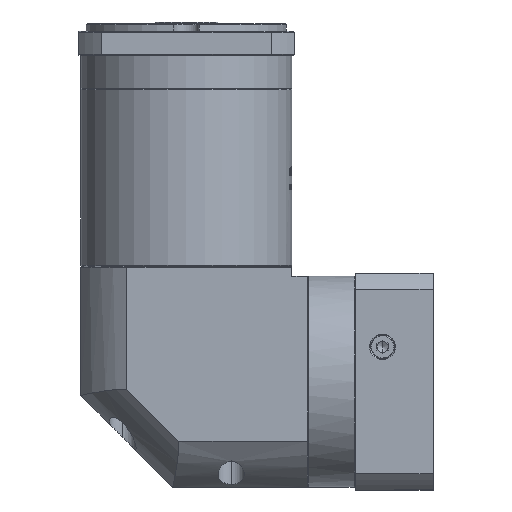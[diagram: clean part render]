
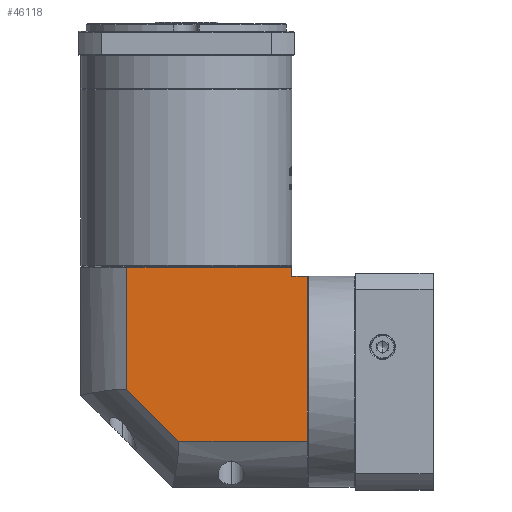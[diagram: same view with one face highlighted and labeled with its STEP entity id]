
A CAD part, left-side view. The second image highlights one B-rep face of the part: STEP entity #46118.
In plain terms, the highlighted planar face has unit normal (-1, 0, 0).
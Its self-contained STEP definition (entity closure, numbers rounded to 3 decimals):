
#769 = ORIENTED_EDGE ( 'NONE', *, *, #129847, .F. ) ;
#1420 = VECTOR ( 'NONE', #135850, 1000. ) ;
#1947 = CARTESIAN_POINT ( 'NONE',  ( -266.518, 25.467, 94.296 ) ) ;
#3089 = DIRECTION ( 'NONE',  ( 0., 0., 1. ) ) ;
#4022 = DIRECTION ( 'NONE',  ( 0., 1., 0. ) ) ;
#11908 = CARTESIAN_POINT ( 'NONE',  ( -266.518, -97.933, -7.104 ) ) ;
#13680 = EDGE_CURVE ( 'NONE', #134023, #71669, #16018, .T. ) ;
#14111 = PLANE ( 'NONE',  #39525 ) ;
#16018 = LINE ( 'NONE', #142987, #107247 ) ;
#17483 = FACE_OUTER_BOUND ( 'NONE', #151511, .T. ) ;
#24623 = VERTEX_POINT ( 'NONE', #162646 ) ;
#24628 = VERTEX_POINT ( 'NONE', #60773 ) ;
#27489 = CARTESIAN_POINT ( 'NONE',  ( -266.518, -89.533, 82.796 ) ) ;
#27986 = CARTESIAN_POINT ( 'NONE',  ( -266.518, -89.533, -32.204 ) ) ;
#35723 = ORIENTED_EDGE ( 'NONE', *, *, #13680, .T. ) ;
#39525 = AXIS2_PLACEMENT_3D ( 'NONE', #1947, #128698, #103835 ) ;
#45920 = ORIENTED_EDGE ( 'NONE', *, *, #157687, .F. ) ;
#46118 = ADVANCED_FACE ( 'NONE', ( #17483 ), #14111, .F. ) ;
#50097 = ORIENTED_EDGE ( 'NONE', *, *, #125048, .T. ) ;
#50543 = EDGE_CURVE ( 'NONE', #24628, #104330, #106464, .T. ) ;
#52717 = CARTESIAN_POINT ( 'NONE',  ( -266.518, 0.367, 94.296 ) ) ;
#57429 = CARTESIAN_POINT ( 'NONE',  ( -266.518, 25.467, -7.104 ) ) ;
#58940 = VECTOR ( 'NONE', #151903, 1000. ) ;
#60773 = CARTESIAN_POINT ( 'NONE',  ( -266.518, 0.367, 21.234 ) ) ;
#63990 = DIRECTION ( 'NONE',  ( 0., 0., -1. ) ) ;
#64877 = LINE ( 'NONE', #151918, #130174 ) ;
#65775 = ORIENTED_EDGE ( 'NONE', *, *, #50543, .F. ) ;
#71669 = VERTEX_POINT ( 'NONE', #27489 ) ;
#73375 = EDGE_CURVE ( 'NONE', #104330, #156011, #64877, .T. ) ;
#74823 = LINE ( 'NONE', #27986, #154159 ) ;
#78315 = VERTEX_POINT ( 'NONE', #11908 ) ;
#80417 = LINE ( 'NONE', #89466, #118085 ) ;
#86980 = CARTESIAN_POINT ( 'NONE',  ( -266.518, -97.933, 82.796 ) ) ;
#89068 = VECTOR ( 'NONE', #108343, 1000. ) ;
#89466 = CARTESIAN_POINT ( 'NONE',  ( -266.518, -97.933, 94.296 ) ) ;
#90563 = LINE ( 'NONE', #97653, #1420 ) ;
#97653 = CARTESIAN_POINT ( 'NONE',  ( -266.518, -27.971, -7.104 ) ) ;
#98943 = LINE ( 'NONE', #57429, #89068 ) ;
#100928 = ORIENTED_EDGE ( 'NONE', *, *, #115651, .F. ) ;
#101492 = DIRECTION ( 'NONE',  ( 0., -1., 0. ) ) ;
#103473 = ORIENTED_EDGE ( 'NONE', *, *, #73375, .F. ) ;
#103835 = DIRECTION ( 'NONE',  ( 0., 1., 0. ) ) ;
#104330 = VERTEX_POINT ( 'NONE', #148557 ) ;
#106464 = LINE ( 'NONE', #52717, #58940 ) ;
#107247 = VECTOR ( 'NONE', #4022, 1000. ) ;
#108343 = DIRECTION ( 'NONE',  ( 0., 1., 0. ) ) ;
#115651 = EDGE_CURVE ( 'NONE', #24623, #24628, #90563, .T. ) ;
#118085 = VECTOR ( 'NONE', #63990, 1000. ) ;
#125048 = EDGE_CURVE ( 'NONE', #71669, #156011, #74823, .T. ) ;
#128698 = DIRECTION ( 'NONE',  ( 1., 0., 0. ) ) ;
#129847 = EDGE_CURVE ( 'NONE', #134023, #78315, #80417, .T. ) ;
#130174 = VECTOR ( 'NONE', #101492, 1000. ) ;
#134023 = VERTEX_POINT ( 'NONE', #86980 ) ;
#135850 = DIRECTION ( 'NONE',  ( 0., 0.707, 0.707 ) ) ;
#142987 = CARTESIAN_POINT ( 'NONE',  ( -266.518, -89.533, 82.796 ) ) ;
#148557 = CARTESIAN_POINT ( 'NONE',  ( -266.518, 0.367, 87.796 ) ) ;
#151511 = EDGE_LOOP ( 'NONE', ( #65775, #100928, #45920, #769, #35723, #50097, #103473 ) ) ;
#151903 = DIRECTION ( 'NONE',  ( 0., 0., 1. ) ) ;
#151918 = CARTESIAN_POINT ( 'NONE',  ( -266.518, 25.467, 87.796 ) ) ;
#154159 = VECTOR ( 'NONE', #3089, 1000. ) ;
#156011 = VERTEX_POINT ( 'NONE', #160852 ) ;
#157687 = EDGE_CURVE ( 'NONE', #78315, #24623, #98943, .T. ) ;
#160852 = CARTESIAN_POINT ( 'NONE',  ( -266.518, -89.533, 87.796 ) ) ;
#162646 = CARTESIAN_POINT ( 'NONE',  ( -266.518, -27.971, -7.104 ) ) ;
